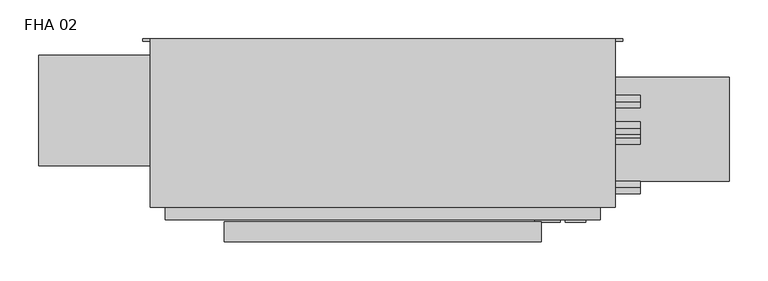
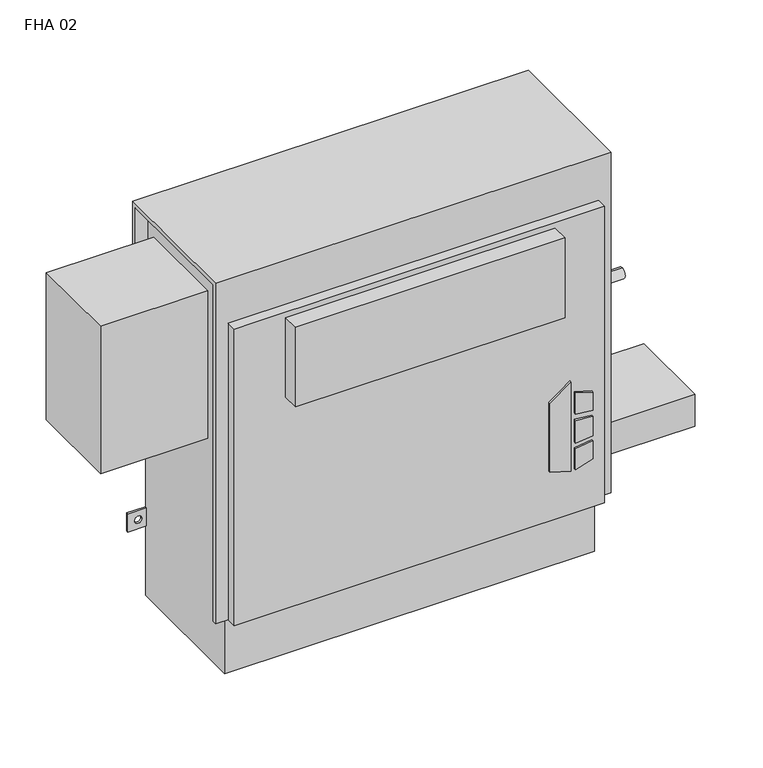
"""IFC4 building model written with IfcOpenShell, lengths in millimetres: proxy geometry, Vertical_Fan_Coil_Unit_-_FHA_-_IEC_-_4-Pipe_FS-FR_RH_2022 : FHA 02."""

from ifc_helpers import new_model, si_unit, point, frame, frame_2d, origin, place, context, project, spatial, polyline, circle_curve, trimmed, segment, composite_curve, outline, extrude, source, transform, mapped, element, save
from ifc_brep_helpers import plane_surface, revolved_surface, advanced_brep


def fha_02_fc1f7e35(model_context):
    return source(origin(), model_context, "Body", "SolidModel", [
        extrude(outline(polyline([(172.5771459, 347.7368862), (162.6290756, 379.9102728), (304.8, 379.9102728), (281.7779939, 347.7368862), (172.5771459, 347.7368862)])), frame((0.0, 9.525, 0.0), z_axis=(0.0, 1.0, 0.0), x_axis=(0.0, 0.0, 1.0)), (0.0, 0.0, 1.0), 3.175),
        extrude(outline(polyline([(251.5764313, 386.6686058), (248.3740387, 412.75), (277.6028798, 412.75), (285.6672948, 386.6686058), (251.5764313, 386.6686058)])), frame((0.0, 9.525, 0.0), z_axis=(0.0, 1.0, 0.0), x_axis=(0.0, 0.0, 1.0)), (0.0, 0.0, 1.0), 3.175),
        extrude(outline(polyline([(199.7129044, 412.75), (196.0474034, 386.6686058), (162.6290756, 386.6686058), (171.2633128, 412.75), (199.7129044, 412.75)])), frame((0.0, 9.525, 0.0), z_axis=(0.0, 1.0, 0.0), x_axis=(0.0, 0.0, 1.0)), (0.0, 0.0, 1.0), 3.175),
        extrude(outline(polyline([(239.0280658, 412.75), (241.3098921, 386.6686058), (205.3723436, 386.6686058), (208.1136086, 412.75), (239.0280658, 412.75)])), frame((0.0, 9.525, 0.0), z_axis=(0.0, 1.0, 0.0), x_axis=(0.0, 0.0, 1.0)), (0.0, 0.0, 1.0), 3.175),
        extrude(outline(composite_curve([segment(trimmed(circle_curve(frame_2d((495.3, 128.5875)), 9.525), [point((485.775, 128.5875))], [point((504.825, 128.5875))], False, "CARTESIAN"), True, "CONTINUOUS"), segment(trimmed(circle_curve(frame_2d((495.3, 128.5875)), 9.525), [point((504.825, 128.5875))], [point((485.775, 128.5875))], False, "CARTESIAN"), True, "CONTINUOUS")], self_intersect=False)), frame((0.0, 0.0, 101.6), z_axis=(0.0, 0.0, 1.0), x_axis=(1.0, 0.0, 0.0)), (0.0, 0.0, 1.0), 25.4),
        extrude(outline(polyline([(596.9, 195.2625), (596.9, 61.9125), (431.8, 61.9125), (431.8, 195.2625), (596.9, 195.2625)])), frame((0.0, 0.0, 127.0), z_axis=(0.0, 0.0, 1.0), x_axis=(1.0, 0.0, 0.0)), (0.0, 0.0, 1.0), 50.8),
        extrude(outline(polyline([(355.6, -15.875), (-50.8, -15.875), (-50.8, 9.525), (355.6, 9.525), (355.6, -15.875)])), frame((0.0, 0.0, 431.8), z_axis=(0.0, 0.0, 1.0), x_axis=(1.0, 0.0, 0.0)), (0.0, 0.0, 1.0), 127.0),
        extrude(outline(composite_curve([segment(trimmed(circle_curve(frame_2d((117.475, 472.44)), 7.9375), [point((117.475, 464.5025))], [point((117.475, 480.3775))], False, "CARTESIAN"), True, "CONTINUOUS"), segment(trimmed(circle_curve(frame_2d((117.475, 472.44)), 7.9375), [point((117.475, 480.3775))], [point((117.475, 464.5025))], False, "CARTESIAN"), True, "CONTINUOUS")], self_intersect=False)), frame((431.8, 0.0, 0.0), z_axis=(1.0, 0.0, 0.0), x_axis=(0.0, 1.0, 0.0)), (0.0, 0.0, 1.0), 50.8),
        extrude(outline(composite_curve([segment(trimmed(circle_curve(frame_2d((164.0586, 445.897)), 7.9375), [point((164.0586, 437.9595))], [point((164.0586, 453.8345))], False, "CARTESIAN"), True, "CONTINUOUS"), segment(trimmed(circle_curve(frame_2d((164.0586, 445.897)), 7.9375), [point((164.0586, 453.8345))], [point((164.0586, 437.9595))], False, "CARTESIAN"), True, "CONTINUOUS")], self_intersect=False)), frame((431.8, 0.0, 0.0), z_axis=(1.0, 0.0, 0.0), x_axis=(0.0, 1.0, 0.0)), (0.0, 0.0, 1.0), 50.8),
        extrude(outline(composite_curve([segment(trimmed(circle_curve(frame_2d((130.175, 554.99)), 7.9502), [point((130.175, 547.0398))], [point((130.175, 562.9402))], False, "CARTESIAN"), True, "CONTINUOUS"), segment(trimmed(circle_curve(frame_2d((130.175, 554.99)), 7.9502), [point((130.175, 562.9402))], [point((130.175, 547.0398))], False, "CARTESIAN"), True, "CONTINUOUS")], self_intersect=False)), frame((431.8, 0.0, 0.0), z_axis=(1.0, 0.0, 0.0), x_axis=(0.0, 1.0, 0.0)), (0.0, 0.0, 1.0), 50.8),
        extrude(outline(composite_curve([segment(trimmed(circle_curve(frame_2d((53.975, 416.56)), 7.9502), [point((53.975, 408.6098))], [point((53.975, 424.5102))], False, "CARTESIAN"), True, "CONTINUOUS"), segment(trimmed(circle_curve(frame_2d((53.975, 416.56)), 7.9502), [point((53.975, 424.5102))], [point((53.975, 408.6098))], False, "CARTESIAN"), True, "CONTINUOUS")], self_intersect=False)), frame((431.8, 0.0, 0.0), z_axis=(1.0, 0.0, 0.0), x_axis=(0.0, 1.0, 0.0)), (0.0, 0.0, 1.0), 50.8),
        extrude(outline(polyline([(-127.0, 223.266), (-127.0, 81.534), (-288.925, 81.534), (-288.925, 223.266), (-127.0, 223.266)])), frame((0.0, 0.0, 349.25), z_axis=(0.0, 0.0, 1.0), x_axis=(1.0, 0.0, 0.0)), (0.0, 0.0, 1.0), 234.95),
        advanced_brep(
        [(450.85, 244.475, 635.0), (-146.05, 244.475, 635.0), (-146.05, 28.575, 635.0), (450.85, 28.575, 635.0), (-127.0, 244.475, 0.0), (431.8, 244.475, 0.0), (431.8, 38.1, 0.0), (-127.0, 38.1, 0.0), (450.85, 244.475, 558.8), (431.8, 244.475, 558.8), (431.8, 244.475, 414.3375), (460.375, 244.475, 414.3375), (460.375, 244.475, 385.7625), (431.8, 244.475, 385.7625), (431.8, 244.475, 287.3375), (460.375, 244.475, 287.3375), (460.375, 244.475, 258.7625), (431.8, 244.475, 258.7625), (431.8, 244.475, 141.2875), (460.375, 244.475, 141.2875), (460.375, 244.475, 112.7125), (431.8, 244.475, 112.7125), (-127.0, 244.475, 112.7125), (-155.575, 244.475, 112.7125), (-155.575, 244.475, 141.2875), (-127.0, 244.475, 141.2875), (-127.0, 244.475, 258.7625), (-155.575, 244.475, 258.7625), (-155.575, 244.475, 287.3375), (-127.0, 244.475, 287.3375), (-127.0, 244.475, 385.7625), (-155.575, 244.475, 385.7625), (-155.575, 244.475, 414.3375), (-127.0, 244.475, 414.3375), (-127.0, 244.475, 558.8), (-146.05, 244.475, 558.8), (450.0626, 244.475, 127.0), (438.9374, 244.475, 127.0), (-134.1374, 244.475, 127.0), (-145.2626, 244.475, 127.0), (450.0626, 244.475, 273.05), (438.9374, 244.475, 273.05), (-134.1374, 244.475, 273.05), (-145.2626, 244.475, 273.05), (450.0626, 244.475, 400.05), (438.9374, 244.475, 400.05), (-134.1374, 244.475, 400.05), (-145.2626, 244.475, 400.05), (-146.05, 238.125, 558.8), (-146.05, 238.125, 628.65), (-146.05, 34.925, 628.65), (-146.05, 34.925, 92.075), (-146.05, 28.575, 92.075), (431.8, 12.7, 565.15), (-127.0, 12.7, 565.15), (-127.0, 12.7, 92.075), (431.8, 12.7, 92.075), (450.85, 28.575, 92.075), (450.85, 34.925, 92.075), (450.85, 34.925, 628.65), (450.85, 238.125, 628.65), (450.85, 238.125, 558.8), (-127.0, 28.575, 92.075), (-127.0, 28.575, 565.15), (431.8, 28.575, 565.15), (431.8, 28.575, 92.075), (-127.0, 34.925, 92.075), (-127.0, 38.1, 92.075), (431.8, 38.1, 92.075), (431.8, 34.925, 92.075), (431.8, 241.3, 112.7125), (431.8, 241.3, 141.2875), (431.8, 241.3, 258.7625), (431.8, 241.3, 287.3375), (431.8, 241.3, 385.7625), (431.8, 241.3, 414.3375), (431.8, 238.125, 558.8), (431.8, 238.125, 628.65), (431.8, 34.925, 628.65), (-127.0, 34.925, 628.65), (-127.0, 238.125, 628.65), (-127.0, 238.125, 558.8), (-127.0, 241.3, 414.3375), (-127.0, 241.3, 385.7625), (-127.0, 241.3, 287.3375), (-127.0, 241.3, 258.7625), (-127.0, 241.3, 141.2875), (-127.0, 241.3, 112.7125), (460.375, 241.3, 112.7125), (460.375, 241.3, 141.2875), (438.9374, 241.3, 127.0), (450.0626, 241.3, 127.0), (460.375, 241.3, 258.7625), (460.375, 241.3, 287.3375), (438.9374, 241.3, 273.05), (450.0626, 241.3, 273.05), (460.375, 241.3, 385.7625), (460.375, 241.3, 414.3375), (438.9374, 241.3, 400.05), (450.0626, 241.3, 400.05), (-155.575, 241.3, 141.2875), (-155.575, 241.3, 112.7125), (-145.2626, 241.3, 127.0), (-134.1374, 241.3, 127.0), (-155.575, 241.3, 287.3375), (-155.575, 241.3, 258.7625), (-145.2626, 241.3, 273.05), (-134.1374, 241.3, 273.05), (-155.575, 241.3, 414.3375), (-155.575, 241.3, 385.7625), (-145.2626, 241.3, 400.05), (-134.1374, 241.3, 400.05)],
        [
            (0, 1),
            (1, 2),
            (2, 3),
            (3, 0),
            (4, 5),
            (5, 6),
            (6, 7),
            (7, 4),
            (0, 8),
            (8, 9),
            (9, 10),
            (10, 11),
            (11, 12),
            (12, 13),
            (13, 14),
            (14, 15),
            (15, 16),
            (16, 17),
            (17, 18),
            (18, 19),
            (19, 20),
            (20, 21),
            (21, 5),
            (4, 22),
            (22, 23),
            (23, 24),
            (24, 25),
            (25, 26),
            (26, 27),
            (27, 28),
            (28, 29),
            (29, 30),
            (30, 31),
            (31, 32),
            (32, 33),
            (33, 34),
            (34, 35),
            (35, 1),
            (36, 37, circle_curve(frame((444.5, 244.475, 127.0), z_axis=(0.0, -1.0, 0.0), x_axis=(-1.0, 0.0, 0.0)), 5.5626)),
            (37, 36, circle_curve(frame((444.5, 244.475, 127.0), z_axis=(0.0, -1.0, 0.0), x_axis=(-1.0, 0.0, 0.0)), 5.5626)),
            (38, 39, circle_curve(frame((-139.7, 244.475, 127.0), z_axis=(0.0, -1.0, 0.0), x_axis=(-1.0, 0.0, 0.0)), 5.5626)),
            (39, 38, circle_curve(frame((-139.7, 244.475, 127.0), z_axis=(0.0, -1.0, 0.0), x_axis=(-1.0, 0.0, 0.0)), 5.5626)),
            (40, 41, circle_curve(frame((444.5, 244.475, 273.05), z_axis=(0.0, -1.0, 0.0), x_axis=(-1.0, 0.0, 0.0)), 5.5626)),
            (41, 40, circle_curve(frame((444.5, 244.475, 273.05), z_axis=(0.0, -1.0, 0.0), x_axis=(-1.0, 0.0, 0.0)), 5.5626)),
            (42, 43, circle_curve(frame((-139.7, 244.475, 273.05), z_axis=(0.0, -1.0, 0.0), x_axis=(-1.0, 0.0, 0.0)), 5.5626)),
            (43, 42, circle_curve(frame((-139.7, 244.475, 273.05), z_axis=(0.0, -1.0, 0.0), x_axis=(-1.0, 0.0, 0.0)), 5.5626)),
            (44, 45, circle_curve(frame((444.5, 244.475, 400.05), z_axis=(0.0, -1.0, 0.0), x_axis=(-1.0, 0.0, 0.0)), 5.5626)),
            (45, 44, circle_curve(frame((444.5, 244.475, 400.05), z_axis=(0.0, -1.0, 0.0), x_axis=(-1.0, 0.0, 0.0)), 5.5626)),
            (46, 47, circle_curve(frame((-139.7, 244.475, 400.05), z_axis=(0.0, -1.0, 0.0), x_axis=(-1.0, 0.0, 0.0)), 5.5626)),
            (47, 46, circle_curve(frame((-139.7, 244.475, 400.05), z_axis=(0.0, -1.0, 0.0), x_axis=(-1.0, 0.0, 0.0)), 5.5626)),
            (35, 48),
            (48, 49),
            (49, 50),
            (50, 51),
            (51, 52),
            (52, 2),
            (53, 54),
            (54, 55),
            (55, 56),
            (56, 53),
            (3, 57),
            (57, 58),
            (58, 59),
            (59, 60),
            (60, 61),
            (61, 8),
            (52, 62),
            (62, 63),
            (63, 64),
            (64, 65),
            (65, 57),
            (53, 64),
            (63, 54),
            (55, 62),
            (51, 66),
            (66, 67),
            (67, 68),
            (68, 69),
            (69, 58),
            (65, 56),
            (6, 68),
            (67, 7),
            (21, 70),
            (70, 71),
            (71, 18),
            (17, 72),
            (72, 73),
            (73, 14),
            (13, 74),
            (74, 75),
            (75, 10),
            (9, 76),
            (76, 77),
            (77, 78),
            (78, 69),
            (66, 79),
            (79, 80),
            (80, 81),
            (81, 34),
            (33, 82),
            (82, 83),
            (83, 30),
            (29, 84),
            (84, 85),
            (85, 26),
            (25, 86),
            (86, 87),
            (87, 22),
            (76, 61),
            (60, 77),
            (78, 59),
            (50, 79),
            (81, 48),
            (80, 49),
            (70, 88),
            (88, 89),
            (89, 71),
            (90, 91, circle_curve(frame((444.5, 241.3, 127.0), z_axis=(0.0, 1.0, 0.0), x_axis=(-1.0, 0.0, 0.0)), 5.5626)),
            (91, 90, circle_curve(frame((444.5, 241.3, 127.0), z_axis=(0.0, 1.0, 0.0), x_axis=(-1.0, 0.0, 0.0)), 5.5626)),
            (92, 93),
            (93, 73),
            (72, 92),
            (94, 95, circle_curve(frame((444.5, 241.3, 273.05), z_axis=(0.0, 1.0, 0.0), x_axis=(-1.0, 0.0, 0.0)), 5.5626)),
            (95, 94, circle_curve(frame((444.5, 241.3, 273.05), z_axis=(0.0, 1.0, 0.0), x_axis=(-1.0, 0.0, 0.0)), 5.5626)),
            (96, 97),
            (97, 75),
            (74, 96),
            (98, 99, circle_curve(frame((444.5, 241.3, 400.05), z_axis=(0.0, 1.0, 0.0), x_axis=(-1.0, 0.0, 0.0)), 5.5626)),
            (99, 98, circle_curve(frame((444.5, 241.3, 400.05), z_axis=(0.0, 1.0, 0.0), x_axis=(-1.0, 0.0, 0.0)), 5.5626)),
            (100, 101),
            (101, 87),
            (86, 100),
            (102, 103, circle_curve(frame((-139.7, 241.3, 127.0), z_axis=(0.0, 1.0, 0.0), x_axis=(-1.0, 0.0, 0.0)), 5.5626)),
            (103, 102, circle_curve(frame((-139.7, 241.3, 127.0), z_axis=(0.0, 1.0, 0.0), x_axis=(-1.0, 0.0, 0.0)), 5.5626)),
            (84, 104),
            (104, 105),
            (105, 85),
            (106, 107, circle_curve(frame((-139.7, 241.3, 273.05), z_axis=(0.0, 1.0, 0.0), x_axis=(-1.0, 0.0, 0.0)), 5.5626)),
            (107, 106, circle_curve(frame((-139.7, 241.3, 273.05), z_axis=(0.0, 1.0, 0.0), x_axis=(-1.0, 0.0, 0.0)), 5.5626)),
            (108, 109),
            (109, 83),
            (82, 108),
            (110, 111, circle_curve(frame((-139.7, 241.3, 400.05), z_axis=(0.0, 1.0, 0.0), x_axis=(-1.0, 0.0, 0.0)), 5.5626)),
            (111, 110, circle_curve(frame((-139.7, 241.3, 400.05), z_axis=(0.0, 1.0, 0.0), x_axis=(-1.0, 0.0, 0.0)), 5.5626)),
            (89, 19),
            (88, 20),
            (16, 92),
            (93, 15),
            (12, 96),
            (97, 11),
            (24, 100),
            (101, 23),
            (105, 27),
            (104, 28),
            (32, 108),
            (109, 31),
            (90, 37),
            (36, 91),
            (102, 39),
            (38, 103),
            (94, 41),
            (40, 95),
            (106, 43),
            (42, 107),
            (98, 45),
            (44, 99),
            (110, 47),
            (46, 111),
        ],
        [
            plane_surface(frame((-146.05, 244.475, 635.0), z_axis=(0.0, 0.0, 1.0), x_axis=(-1.0, 0.0, 0.0))),
            plane_surface(frame((-146.05, 244.475, 0.0), z_axis=(0.0, 0.0, -1.0), x_axis=(1.0, 0.0, 0.0))),
            plane_surface(frame((450.85, 244.475, 635.0), z_axis=(0.0, 1.0, 0.0), x_axis=(0.0, 0.0, -1.0))),
            plane_surface(frame((-146.05, 244.475, 635.0), z_axis=(-1.0, 0.0, 0.0), x_axis=(0.0, 0.0, -1.0))),
            plane_surface(frame((-146.05, 12.7, 635.0), z_axis=(0.0, -1.0, 0.0), x_axis=(0.0, 0.0, -1.0))),
            plane_surface(frame((450.85, 12.7, 635.0), z_axis=(1.0, 0.0, 0.0), x_axis=(0.0, 0.0, -1.0))),
            plane_surface(frame((-146.05, 28.575, 635.0), z_axis=(0.0, -1.0, 0.0), x_axis=(1.0, 0.0, 0.0))),
            plane_surface(frame((-146.05, 28.575, 565.15), z_axis=(0.0, 0.0, 1.0), x_axis=(1.0, 0.0, 0.0))),
            plane_surface(frame((-146.05, 12.7, 92.075), z_axis=(0.0, 0.0, -1.0), x_axis=(1.0, 0.0, 0.0))),
            plane_surface(frame((-146.05, 38.1, 92.075), z_axis=(0.0, -1.0, 0.0), x_axis=(1.0, 0.0, 0.0))),
            plane_surface(frame((431.8, 28.575, 92.075), z_axis=(1.0, 0.0, 0.0), x_axis=(0.0, -1.0, 0.0))),
            plane_surface(frame((-127.0, 28.575, 565.15), z_axis=(-1.0, 0.0, 0.0), x_axis=(0.0, -1.0, 0.0))),
            plane_surface(frame((431.8, 244.475, 0.0), z_axis=(1.0, 0.0, 0.0), x_axis=(0.0, -1.0, 0.0))),
            plane_surface(frame((-127.0, 244.475, 92.075), z_axis=(-1.0, 0.0, 0.0), x_axis=(0.0, -1.0, 0.0))),
            plane_surface(frame((431.8, 238.125, 628.65), z_axis=(0.0, -1.0, 0.0), x_axis=(1.0, 0.0, 0.0))),
            plane_surface(frame((431.8, 238.125, 558.8), z_axis=(0.0, 0.0, -1.0), x_axis=(1.0, 0.0, 0.0))),
            plane_surface(frame((431.8, 34.925, 92.075), z_axis=(0.0, 1.0, 0.0), x_axis=(1.0, 0.0, 0.0))),
            plane_surface(frame((431.8, 34.925, 628.65), z_axis=(0.0, 0.0, -1.0), x_axis=(1.0, 0.0, 0.0))),
            plane_surface(frame((-127.0, 34.925, 628.65), z_axis=(0.0, 1.0, 0.0), x_axis=(-1.0, 0.0, 0.0))),
            plane_surface(frame((-127.0, 244.475, 558.8), z_axis=(0.0, 0.0, -1.0), x_axis=(-1.0, 0.0, 0.0))),
            plane_surface(frame((-127.0, 238.125, 558.8), z_axis=(0.0, -1.0, 0.0), x_axis=(-1.0, 0.0, 0.0))),
            plane_surface(frame((-127.0, 238.125, 628.65), z_axis=(0.0, 0.0, -1.0), x_axis=(-1.0, 0.0, 0.0))),
            plane_surface(frame((460.375, 241.3, 141.2875), z_axis=(0.0, -1.0, 0.0), x_axis=(-1.0, 0.0, 0.0))),
            plane_surface(frame((431.8, 244.475, 141.2875), z_axis=(0.0, 0.0, 1.0), x_axis=(0.0, -1.0, 0.0))),
            plane_surface(frame((460.375, 244.475, 141.2875), z_axis=(1.0, 0.0, 0.0), x_axis=(0.0, -1.0, 0.0))),
            plane_surface(frame((460.375, 244.475, 112.7125), z_axis=(0.0, 0.0, -1.0), x_axis=(0.0, -1.0, 0.0))),
            plane_surface(frame((460.375, 244.475, 258.7625), z_axis=(0.0, 0.0, -1.0), x_axis=(0.0, -1.0, 0.0))),
            plane_surface(frame((431.8, 244.475, 287.3375), z_axis=(0.0, 0.0, 1.0), x_axis=(0.0, -1.0, 0.0))),
            plane_surface(frame((460.375, 244.475, 287.3375), z_axis=(1.0, 0.0, 0.0), x_axis=(0.0, -1.0, 0.0))),
            plane_surface(frame((460.375, 244.475, 385.7625), z_axis=(0.0, 0.0, -1.0), x_axis=(0.0, -1.0, 0.0))),
            plane_surface(frame((431.8, 244.475, 414.3375), z_axis=(0.0, 0.0, 1.0), x_axis=(0.0, -1.0, 0.0))),
            plane_surface(frame((460.375, 244.475, 414.3375), z_axis=(1.0, 0.0, 0.0), x_axis=(0.0, -1.0, 0.0))),
            plane_surface(frame((-155.575, 244.475, 141.2875), z_axis=(0.0, 0.0, 1.0), x_axis=(0.0, -1.0, 0.0))),
            plane_surface(frame((-127.0, 244.475, 112.7125), z_axis=(0.0, 0.0, -1.0), x_axis=(0.0, -1.0, 0.0))),
            plane_surface(frame((-155.575, 244.475, 112.7125), z_axis=(-1.0, 0.0, 0.0), x_axis=(0.0, -1.0, 0.0))),
            plane_surface(frame((-127.0, 244.475, 258.7625), z_axis=(0.0, 0.0, -1.0), x_axis=(0.0, -1.0, 0.0))),
            plane_surface(frame((-155.575, 244.475, 258.7625), z_axis=(-1.0, 0.0, 0.0), x_axis=(0.0, -1.0, 0.0))),
            plane_surface(frame((-155.575, 244.475, 287.3375), z_axis=(0.0, 0.0, 1.0), x_axis=(0.0, -1.0, 0.0))),
            plane_surface(frame((-155.575, 244.475, 414.3375), z_axis=(0.0, 0.0, 1.0), x_axis=(0.0, -1.0, 0.0))),
            plane_surface(frame((-127.0, 244.475, 385.7625), z_axis=(0.0, 0.0, -1.0), x_axis=(0.0, -1.0, 0.0))),
            plane_surface(frame((-155.575, 244.475, 385.7625), z_axis=(-1.0, 0.0, 0.0), x_axis=(0.0, -1.0, 0.0))),
            revolved_surface(polyline([(438.9374, 241.3, 127.0), (438.9374, 244.475, 127.0)]), (444.5, 244.475, 127.0), (0.0, -1.0, 0.0)),
            revolved_surface(polyline([(-145.2626, 241.3, 127.0), (-145.2626, 244.475, 127.0)]), (-139.7, 244.475, 127.0), (0.0, -1.0, 0.0)),
            revolved_surface(polyline([(438.9374, 241.3, 273.05), (438.9374, 244.475, 273.05)]), (444.5, 244.475, 273.05), (0.0, -1.0, 0.0)),
            revolved_surface(polyline([(-145.2626, 241.3, 273.05), (-145.2626, 244.475, 273.05)]), (-139.7, 244.475, 273.05), (0.0, -1.0, 0.0)),
            revolved_surface(polyline([(438.9374, 241.3, 400.05), (438.9374, 244.475, 400.05)]), (444.5, 244.475, 400.05), (0.0, -1.0, 0.0)),
            revolved_surface(polyline([(-145.2626, 241.3, 400.05), (-145.2626, 244.475, 400.05)]), (-139.7, 244.475, 400.05), (0.0, -1.0, 0.0)),
        ],
        [
            (0, [[1, 2, 3, 4]]),
            (1, [[5, 6, 7, 8]]),
            (2, [[-1, 9, 10, 11, 12, 13, 14, 15, 16, 17, 18, 19, 20, 21, 22, 23, -5, 24, 25, 26, 27, 28, 29, 30, 31, 32, 33, 34, 35, 36, 37, 38], [39, 40], [41, 42], [43, 44], [45, 46], [47, 48], [49, 50]]),
            (3, [[-2, -38, 51, 52, 53, 54, 55, 56]]),
            (4, [[57, 58, 59, 60]]),
            (5, [[-4, 61, 62, 63, 64, 65, 66, -9]]),
            (6, [[-3, -56, 67, 68, 69, 70, 71, -61]]),
            (7, [[-57, 72, -69, 73]]),
            (8, [[-59, 74, -67, -55, 75, 76, 77, 78, 79, -62, -71, 80]]),
            (9, [[-7, 81, -77, 82]]),
            (10, [[-70, -72, -60, -80]]),
            (11, [[-68, -74, -58, -73]]),
            (12, [[-6, -23, 83, 84, 85, -19, 86, 87, 88, -15, 89, 90, 91, -11, 92, 93, 94, 95, -78, -81]]),
            (13, [[-8, -82, -76, 96, 97, 98, 99, -36, 100, 101, 102, -32, 103, 104, 105, -28, 106, 107, 108, -24]]),
            (14, [[-93, 109, -65, 110]]),
            (15, [[-92, -10, -66, -109]]),
            (16, [[-95, 111, -63, -79]]),
            (17, [[-94, -110, -64, -111]]),
            (18, [[-96, -75, -54, 112]]),
            (19, [[-99, 113, -51, -37]]),
            (20, [[-98, 114, -52, -113]]),
            (21, [[-97, -112, -53, -114]]),
            (22, [[115, 116, 117, -84], [118, 119]]),
            (22, [[120, 121, -87, 122], [123, 124]]),
            (22, [[125, 126, -90, 127], [128, 129]]),
            (22, [[130, 131, -107, 132], [133, 134]]),
            (22, [[135, 136, 137, -104], [138, 139]]),
            (22, [[140, 141, -101, 142], [143, 144]]),
            (23, [[-117, 145, -20, -85]]),
            (24, [[-116, 146, -21, -145]]),
            (25, [[-115, -83, -22, -146]]),
            (26, [[-122, -86, -18, 147]]),
            (27, [[-121, 148, -16, -88]]),
            (28, [[-120, -147, -17, -148]]),
            (29, [[-127, -89, -14, 149]]),
            (30, [[-126, 150, -12, -91]]),
            (31, [[-125, -149, -13, -150]]),
            (32, [[-132, -106, -27, 151]]),
            (33, [[-131, 152, -25, -108]]),
            (34, [[-130, -151, -26, -152]]),
            (35, [[-137, 153, -29, -105]]),
            (36, [[-136, 154, -30, -153]]),
            (37, [[-135, -103, -31, -154]]),
            (38, [[-142, -100, -35, 155]]),
            (39, [[-141, 156, -33, -102]]),
            (40, [[-140, -155, -34, -156]]),
            (41, [[157, -39, 158, -118]]),
            (41, [[-157, -119, -158, -40]]),
            (42, [[159, -41, 160, -133]]),
            (42, [[-159, -134, -160, -42]]),
            (43, [[161, -43, 162, -123]]),
            (43, [[-161, -124, -162, -44]]),
            (44, [[163, -45, 164, -138]]),
            (44, [[-163, -139, -164, -46]]),
            (45, [[165, -47, 166, -128]]),
            (45, [[-165, -129, -166, -48]]),
            (46, [[167, -49, 168, -143]]),
            (46, [[-167, -144, -168, -50]]),
        ],
    ),
    ])


if __name__ == "__main__":
    model = new_model("IFC4")
    model_context = context("Model", 3, world=origin())
    ifc_project = project(units=[si_unit("LENGTHUNIT", "METRE", prefix="MILLI")], contexts=[model_context])
    site = spatial("IfcSite", under=ifc_project)
    building = spatial("IfcBuilding", under=site)
    placement = place(None, origin())
    fha_02_shape = fha_02_fc1f7e35(model_context)
    element("IfcBuildingElementProxy", 1, Name="Vertical_Fan_Coil_Unit_-_FHA_-_IEC_-_4-Pipe_FS-FR_RH_2022 : FHA 02", ObjectType="Vertical_Fan_Coil_Unit_-_FHA_-_IEC_-_4-Pipe_FS-FR_RH_2022 : FHA 02", at=placement, inside=building, context=model_context, shape_type="MappedRepresentation", body=[
        mapped(fha_02_shape, transform((0.0, 0.0, 0.0), x_axis=(1.0, 0.0, 0.0), y_axis=(0.0, 1.0, 0.0), z_axis=(0.0, 0.0, 1.0))),
    ])
    save(model, "model.ifc")
